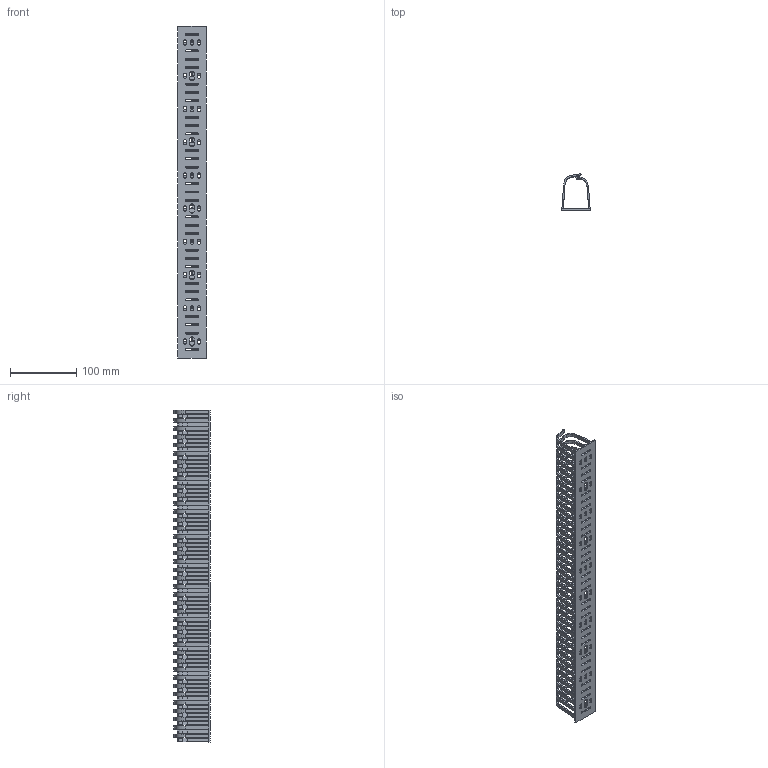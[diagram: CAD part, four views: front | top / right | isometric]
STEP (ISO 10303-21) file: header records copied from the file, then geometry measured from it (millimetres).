
FILE_DESCRIPTION(('Open CASCADE Model'),'2;1');
FILE_NAME('Open CASCADE Shape Model','2026-02-10T10:58:48',('Author'),( 'Open CASCADE'),'Open CASCADE STEP processor 7.8','Open CASCADE 7.8' ,'Unknown');
FILE_SCHEMA(('AUTOMOTIVE_DESIGN { 1 0 10303 214 1 1 1 1 }'));
Length unit declared in the file: millimetre
Products named in the file (1): Solid1
Bounding box: 42.5 x 55.39 x 500 mm (x, y, z)
Volume: 96613.1 mm3; surface area: 117006.3 mm2
Topology: 1 solids, 1 shells, 1272 faces, 3650 edges, 2380 vertices
Faces by surface type: plane 684, cylinder 500, cone 88
Entity records: 41916 total; most frequent: DIRECTION 7372, CARTESIAN_POINT 7303, ORIENTED_EDGE 7300, EDGE_CURVE 3650, LINE 2474, VECTOR 2474, AXIS2_PLACEMENT_3D 2449, VERTEX_POINT 2380
